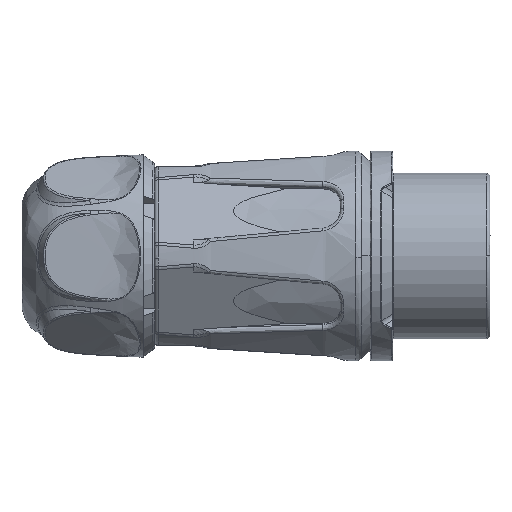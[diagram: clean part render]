
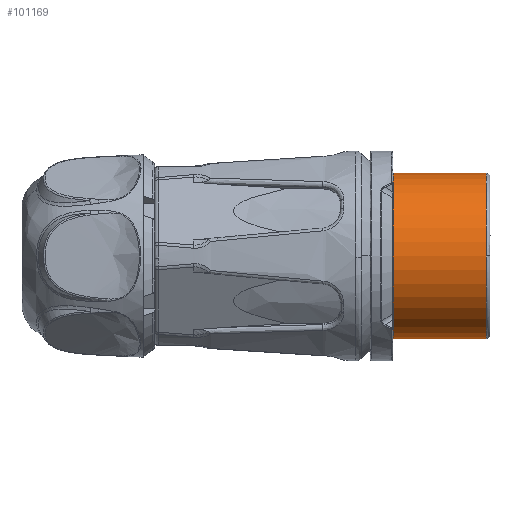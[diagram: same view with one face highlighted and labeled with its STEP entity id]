
A CAD part, front view. The second image highlights one B-rep face of the part: STEP entity #101169.
In plain terms, the highlighted cylindrical face has radius 11.05 mm (diameter 22.1 mm), a partial arc.
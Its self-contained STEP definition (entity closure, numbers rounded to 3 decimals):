
#1730 = DIRECTION ( 'NONE',  ( 0., 1., 0. ) ) ;
#5384 = ORIENTED_EDGE ( 'NONE', *, *, #31538, .T. ) ;
#6134 = DIRECTION ( 'NONE',  ( 0., 0., 1. ) ) ;
#10972 = EDGE_LOOP ( 'NONE', ( #94443, #122764, #60615, #114474, #82905, #5384, #60844 ) ) ;
#11971 = CARTESIAN_POINT ( 'NONE',  ( 4.315, 44.825, 10.173 ) ) ;
#13569 = CARTESIAN_POINT ( 'NONE',  ( -4.311, 44.9, 10.175 ) ) ;
#13859 = VERTEX_POINT ( 'NONE', #55658 ) ;
#13968 = FACE_OUTER_BOUND ( 'NONE', #10972, .T. ) ;
#19560 = DIRECTION ( 'NONE',  ( 0., 0., 1. ) ) ;
#21569 = LINE ( 'NONE', #47111, #118908 ) ;
#29379 = CARTESIAN_POINT ( 'NONE',  ( 0., 45.4, 0. ) ) ;
#31538 = EDGE_CURVE ( 'NONE', #99599, #72179, #124986, .T. ) ;
#31540 = CARTESIAN_POINT ( 'NONE',  ( 0., 44.9, -11.05 ) ) ;
#32893 = DIRECTION ( 'NONE',  ( 0., 1., 0. ) ) ;
#36284 = CARTESIAN_POINT ( 'NONE',  ( 4.315, 44.825, 10.173 ) ) ;
#36833 = CYLINDRICAL_SURFACE ( 'NONE', #67408, 11.05 ) ;
#37783 = VERTEX_POINT ( 'NONE', #11971 ) ;
#43087 = DIRECTION ( 'NONE',  ( 0., -1., 0. ) ) ;
#44342 = CARTESIAN_POINT ( 'NONE',  ( 4.311, 44.9, 10.175 ) ) ;
#46134 = VECTOR ( 'NONE', #1730, 1000. ) ;
#47111 = CARTESIAN_POINT ( 'NONE',  ( 4.315, 45.4, 10.173 ) ) ;
#51786 = CARTESIAN_POINT ( 'NONE',  ( 4.315, 32.5, 10.173 ) ) ;
#55658 = CARTESIAN_POINT ( 'NONE',  ( -4.315, 44.825, 10.173 ) ) ;
#56901 = DIRECTION ( 'NONE',  ( 0., -1., 0. ) ) ;
#60615 = ORIENTED_EDGE ( 'NONE', *, *, #99475, .T. ) ;
#60844 = ORIENTED_EDGE ( 'NONE', *, *, #73360, .T. ) ;
#64479 = DIRECTION ( 'NONE',  ( 0., -1., 0. ) ) ;
#66297 = VERTEX_POINT ( 'NONE', #82129 ) ;
#67408 = AXIS2_PLACEMENT_3D ( 'NONE', #29379, #68537, #19560 ) ;
#68537 = DIRECTION ( 'NONE',  ( 0., 1., 0. ) ) ;
#69962 = CIRCLE ( 'NONE', #91176, 11.05 ) ;
#71892 = CARTESIAN_POINT ( 'NONE',  ( -4.313, 44.875, 10.173 ) ) ;
#72179 = VERTEX_POINT ( 'NONE', #44342 ) ;
#73360 = EDGE_CURVE ( 'NONE', #72179, #37783, #92217, .T. ) ;
#75734 = AXIS2_PLACEMENT_3D ( 'NONE', #91156, #32893, #100919 ) ;
#76740 = VERTEX_POINT ( 'NONE', #51786 ) ;
#79188 = CARTESIAN_POINT ( 'NONE',  ( -4.315, 45.4, 10.173 ) ) ;
#82129 = CARTESIAN_POINT ( 'NONE',  ( -4.311, 44.9, 10.175 ) ) ;
#82905 = ORIENTED_EDGE ( 'NONE', *, *, #106730, .T. ) ;
#84764 = CARTESIAN_POINT ( 'NONE',  ( 4.311, 44.9, 10.175 ) ) ;
#86261 = CARTESIAN_POINT ( 'NONE',  ( -4.315, 32.5, 10.173 ) ) ;
#91156 = CARTESIAN_POINT ( 'NONE',  ( 0., 32.5, 0. ) ) ;
#91176 = AXIS2_PLACEMENT_3D ( 'NONE', #122644, #64479, #6134 ) ;
#92217 = B_SPLINE_CURVE_WITH_KNOTS ( 'NONE', 3,
 ( #84764, #113641, #94521, #36284 ),
 .UNSPECIFIED., .F., .F.,
 ( 4, 4 ),
 ( 0., 1. ),
 .UNSPECIFIED. ) ;
#94443 = ORIENTED_EDGE ( 'NONE', *, *, #101741, .T. ) ;
#94521 = CARTESIAN_POINT ( 'NONE',  ( 4.315, 44.85, 10.173 ) ) ;
#97252 = B_SPLINE_CURVE_WITH_KNOTS ( 'NONE', 3,
 ( #120288, #110113, #71892, #13569 ),
 .UNSPECIFIED., .F., .F.,
 ( 4, 4 ),
 ( 0., 1. ),
 .UNSPECIFIED. ) ;
#97861 = LINE ( 'NONE', #79188, #46134 ) ;
#98336 = EDGE_CURVE ( 'NONE', #13859, #66297, #97252, .T. ) ;
#99475 = EDGE_CURVE ( 'NONE', #124389, #13859, #97861, .T. ) ;
#99599 = VERTEX_POINT ( 'NONE', #31540 ) ;
#100919 = DIRECTION ( 'NONE',  ( 0., 0., 1. ) ) ;
#101169 = ADVANCED_FACE ( 'NONE', ( #13968 ), #36833, .T. ) ;
#101315 = CARTESIAN_POINT ( 'NONE',  ( 0., 44.9, 0. ) ) ;
#101741 = EDGE_CURVE ( 'NONE', #37783, #76740, #21569, .T. ) ;
#106420 = AXIS2_PLACEMENT_3D ( 'NONE', #101315, #43087, #111065 ) ;
#106730 = EDGE_CURVE ( 'NONE', #66297, #99599, #69962, .T. ) ;
#110113 = CARTESIAN_POINT ( 'NONE',  ( -4.315, 44.85, 10.173 ) ) ;
#111065 = DIRECTION ( 'NONE',  ( 0., 0., 1. ) ) ;
#113641 = CARTESIAN_POINT ( 'NONE',  ( 4.313, 44.875, 10.173 ) ) ;
#114474 = ORIENTED_EDGE ( 'NONE', *, *, #98336, .T. ) ;
#118908 = VECTOR ( 'NONE', #56901, 1000. ) ;
#120288 = CARTESIAN_POINT ( 'NONE',  ( -4.315, 44.825, 10.173 ) ) ;
#121218 = CIRCLE ( 'NONE', #75734, 11.05 ) ;
#122644 = CARTESIAN_POINT ( 'NONE',  ( 0., 44.9, 0. ) ) ;
#122764 = ORIENTED_EDGE ( 'NONE', *, *, #125761, .T. ) ;
#124389 = VERTEX_POINT ( 'NONE', #86261 ) ;
#124986 = CIRCLE ( 'NONE', #106420, 11.05 ) ;
#125761 = EDGE_CURVE ( 'NONE', #76740, #124389, #121218, .T. ) ;
